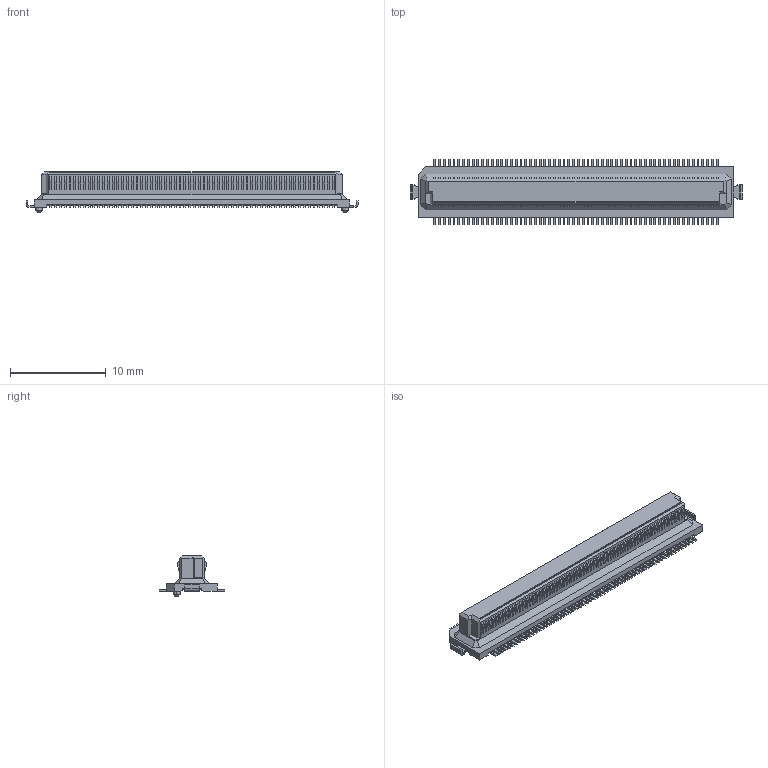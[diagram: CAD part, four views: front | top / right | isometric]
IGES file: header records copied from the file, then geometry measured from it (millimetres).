
Start section: Elysium IGES Interface
Global section: file name: 122HG:\その他\DY関連\CAD\依頼書（ウェブ）_HP用データ\60-36-0111_DY1X-S-1-H\P3E150_DY11-120SB-1-T-H\P3E150_DY11-120SB-1-T-H.igs; native system: Creo Elements/Direct Modeling 20.4A  18-Oct-2021; preprocessor: Creo Element/Direct IGES_3D V2.2; author: Unknown; organization: Unknown; date: 20220301.111406; units: millimetre
Bounding box: 34.7 x 6.8 x 4.23 mm (x, y, z)
Volume: 355 mm3; surface area: 754.2 mm2
Topology: 1 solids, 1 shells, 1814 faces, 4671 edges, 3102 vertices
Faces by surface type: bspline 1814
